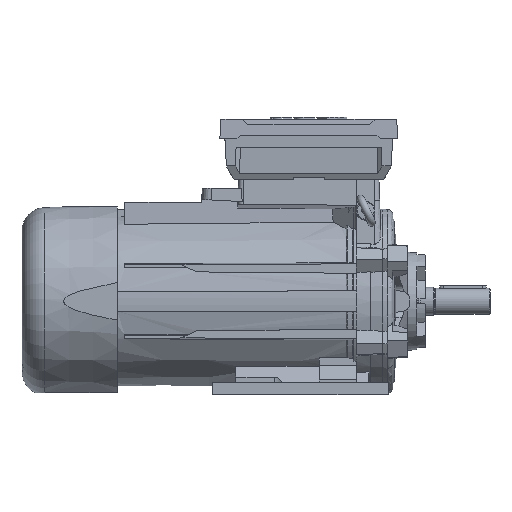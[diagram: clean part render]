
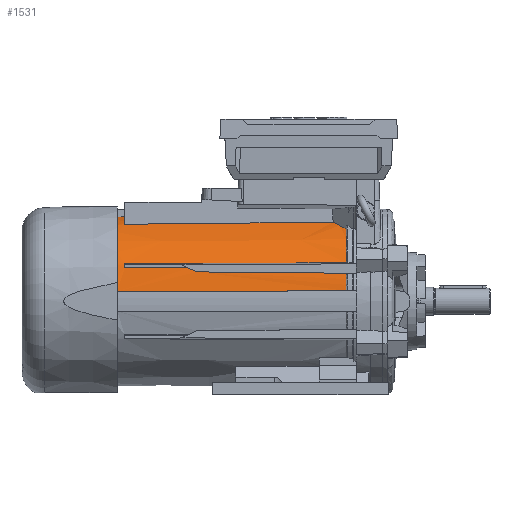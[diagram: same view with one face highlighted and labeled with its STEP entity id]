
A CAD part, left-side view. The second image highlights one B-rep face of the part: STEP entity #1531.
In plain terms, the highlighted conical face has half-angle 0.5 degrees and reference radius 90.718 mm.
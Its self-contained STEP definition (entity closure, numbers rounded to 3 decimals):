
#961=ELLIPSE('',#13448,130.717,92.512);
#962=ELLIPSE('',#13450,91.973,91.917);
#963=ELLIPSE('',#13453,222.337,92.185);
#1032=CONICAL_SURFACE('',#13455,90.718,0.5);
#1155=B_SPLINE_CURVE_WITH_KNOTS('',3,(#17859,#17860,#17861,#17862,#17863,
#17864,#17865),.UNSPECIFIED.,.F.,.F.,(4,3,4),(0.,0.192,1.),
 .UNSPECIFIED.);
#1156=B_SPLINE_CURVE_WITH_KNOTS('',3,(#17869,#17870,#17871,#17872,#17873,
#17874,#17875),.UNSPECIFIED.,.F.,.F.,(4,3,4),(0.,0.474,1.),
 .UNSPECIFIED.);
#1157=B_SPLINE_CURVE_WITH_KNOTS('',3,(#17879,#17880,#17881,#17882),
 .UNSPECIFIED.,.F.,.F.,(4,4),(0.,1.),.UNSPECIFIED.);
#1158=B_SPLINE_CURVE_WITH_KNOTS('',3,(#17886,#17887,#17888,#17889,#17890,
#17891,#17892),.UNSPECIFIED.,.F.,.F.,(4,3,4),(0.,0.266,1.),
 .UNSPECIFIED.);
#1159=B_SPLINE_CURVE_WITH_KNOTS('',3,(#17896,#17897,#17898,#17899),
 .UNSPECIFIED.,.F.,.F.,(4,4),(0.,1.),.UNSPECIFIED.);
#1160=B_SPLINE_CURVE_WITH_KNOTS('',3,(#17903,#17904,#17905,#17906),
 .UNSPECIFIED.,.F.,.F.,(4,4),(0.,1.),.UNSPECIFIED.);
#1161=B_SPLINE_CURVE_WITH_KNOTS('',3,(#17910,#17911,#17912,#17913,#17914,
#17915,#17916),.UNSPECIFIED.,.F.,.F.,(4,3,4),(0.,0.241,1.),
 .UNSPECIFIED.);
#1531=ADVANCED_FACE('',(#2682),#1032,.T.);
#2682=FACE_OUTER_BOUND('',#3335,.T.);
#3335=EDGE_LOOP('',(#4469,#4470,#4471,#4472,#4473,#4474,#4475,#4476,#4477,
#4478,#4479,#4480,#4481,#4482,#4483));
#4098=CIRCLE('',#13447,92.96);
#4099=CIRCLE('',#13449,90.893);
#4100=CIRCLE('',#13451,90.823);
#4101=CIRCLE('',#13452,92.96);
#4102=CIRCLE('',#13454,90.893);
#4469=ORIENTED_EDGE('',*,*,#9449,.F.);
#4470=ORIENTED_EDGE('',*,*,#9450,.F.);
#4471=ORIENTED_EDGE('',*,*,#9451,.T.);
#4472=ORIENTED_EDGE('',*,*,#9452,.F.);
#4473=ORIENTED_EDGE('',*,*,#9453,.T.);
#4474=ORIENTED_EDGE('',*,*,#9454,.T.);
#4475=ORIENTED_EDGE('',*,*,#9455,.F.);
#4476=ORIENTED_EDGE('',*,*,#9456,.F.);
#4477=ORIENTED_EDGE('',*,*,#9457,.T.);
#4478=ORIENTED_EDGE('',*,*,#9458,.F.);
#4479=ORIENTED_EDGE('',*,*,#9459,.T.);
#4480=ORIENTED_EDGE('',*,*,#9460,.T.);
#4481=ORIENTED_EDGE('',*,*,#9461,.T.);
#4482=ORIENTED_EDGE('',*,*,#9462,.F.);
#4483=ORIENTED_EDGE('',*,*,#9463,.T.);
#8219=VERTEX_POINT('',#17855);
#8220=VERTEX_POINT('',#17856);
#8221=VERTEX_POINT('',#17858);
#8222=VERTEX_POINT('',#17866);
#8223=VERTEX_POINT('',#17868);
#8224=VERTEX_POINT('',#17876);
#8225=VERTEX_POINT('',#17878);
#8226=VERTEX_POINT('',#17883);
#8227=VERTEX_POINT('',#17885);
#8228=VERTEX_POINT('',#17893);
#8229=VERTEX_POINT('',#17895);
#8230=VERTEX_POINT('',#17900);
#8231=VERTEX_POINT('',#17902);
#8232=VERTEX_POINT('',#17907);
#8233=VERTEX_POINT('',#17909);
#9449=EDGE_CURVE('',#8219,#8220,#4098,.T.);
#9450=EDGE_CURVE('',#8221,#8219,#961,.T.);
#9451=EDGE_CURVE('',#8221,#8222,#1155,.T.);
#9452=EDGE_CURVE('',#8223,#8222,#4099,.T.);
#9453=EDGE_CURVE('',#8223,#8224,#1156,.T.);
#9454=EDGE_CURVE('',#8224,#8225,#962,.T.);
#9455=EDGE_CURVE('',#8226,#8225,#1157,.T.);
#9456=EDGE_CURVE('',#8227,#8226,#4100,.T.);
#9457=EDGE_CURVE('',#8227,#8228,#1158,.T.);
#9458=EDGE_CURVE('',#8229,#8228,#4101,.T.);
#9459=EDGE_CURVE('',#8229,#8230,#1159,.T.);
#9460=EDGE_CURVE('',#8230,#8231,#963,.T.);
#9461=EDGE_CURVE('',#8231,#8232,#1160,.T.);
#9462=EDGE_CURVE('',#8233,#8232,#4102,.T.);
#9463=EDGE_CURVE('',#8233,#8220,#1161,.T.);
#13447=AXIS2_PLACEMENT_3D('',#17854,#14557,#14558);
#13448=AXIS2_PLACEMENT_3D('',#17857,#14559,#14560);
#13449=AXIS2_PLACEMENT_3D('',#17867,#14561,#14562);
#13450=AXIS2_PLACEMENT_3D('',#17877,#14563,#14564);
#13451=AXIS2_PLACEMENT_3D('',#17884,#14565,#14566);
#13452=AXIS2_PLACEMENT_3D('',#17894,#14567,#14568);
#13453=AXIS2_PLACEMENT_3D('',#17901,#14569,#14570);
#13454=AXIS2_PLACEMENT_3D('',#17908,#14571,#14572);
#13455=AXIS2_PLACEMENT_3D('',#17917,#14573,#14574);
#14557=DIRECTION('',(0.,-1.,0.));
#14558=DIRECTION('',(0.,0.,-1.));
#14559=DIRECTION('',(0.706,-0.708,0.));
#14560=DIRECTION('',(-0.708,-0.706,0.));
#14561=DIRECTION('',(0.,-1.,0.));
#14562=DIRECTION('',(0.,0.,-1.));
#14563=DIRECTION('',(0.,0.999,0.035));
#14564=DIRECTION('',(0.,-0.035,0.999));
#14565=DIRECTION('',(0.,1.,0.));
#14566=DIRECTION('',(0.,0.,1.));
#14567=DIRECTION('',(0.,-1.,0.));
#14568=DIRECTION('',(0.,0.,-1.));
#14569=DIRECTION('',(0.,0.415,-0.91));
#14570=DIRECTION('',(0.,-0.91,-0.415));
#14571=DIRECTION('',(0.,-1.,0.));
#14572=DIRECTION('',(0.,0.,-1.));
#14573=DIRECTION('',(0.,-1.,0.));
#14574=DIRECTION('',(0.,0.,-1.));
#17854=CARTESIAN_POINT('',(0.,42.1,0.));
#17855=CARTESIAN_POINT('',(-51.868,42.1,77.145));
#17856=CARTESIAN_POINT('',(-83.3,42.1,41.265));
#17857=CARTESIAN_POINT('',(-0.806,93.068,0.));
#17858=CARTESIAN_POINT('',(-38.016,55.926,84.699));
#17859=CARTESIAN_POINT('',(-38.016,55.926,84.699));
#17860=CARTESIAN_POINT('',(-38.024,70.216,84.559));
#17861=CARTESIAN_POINT('',(-38.031,84.506,84.419));
#17862=CARTESIAN_POINT('',(-38.038,98.796,84.279));
#17863=CARTESIAN_POINT('',(-38.069,158.864,83.69));
#17864=CARTESIAN_POINT('',(-38.1,218.932,83.1));
#17865=CARTESIAN_POINT('',(-38.131,279.,82.508));
#17866=CARTESIAN_POINT('',(-38.131,279.,82.508));
#17867=CARTESIAN_POINT('',(0.,279.,0.));
#17868=CARTESIAN_POINT('',(-30.826,279.,85.506));
#17869=CARTESIAN_POINT('',(-30.826,279.,85.506));
#17870=CARTESIAN_POINT('',(-30.835,259.979,85.679));
#17871=CARTESIAN_POINT('',(-30.844,240.959,85.852));
#17872=CARTESIAN_POINT('',(-30.853,221.938,86.025));
#17873=CARTESIAN_POINT('',(-30.863,200.832,86.218));
#17874=CARTESIAN_POINT('',(-30.873,179.726,86.41));
#17875=CARTESIAN_POINT('',(-30.883,158.62,86.602));
#17876=CARTESIAN_POINT('',(-30.883,158.62,86.602));
#17877=CARTESIAN_POINT('',(0.,161.643,0.028));
#17878=CARTESIAN_POINT('',(-10.872,158.456,91.3));
#17879=CARTESIAN_POINT('',(-10.49,287.,90.215));
#17880=CARTESIAN_POINT('',(-10.618,244.152,90.577));
#17881=CARTESIAN_POINT('',(-10.745,201.304,90.938));
#17882=CARTESIAN_POINT('',(-10.872,158.456,91.3));
#17883=CARTESIAN_POINT('',(-10.49,287.,90.215));
#17884=CARTESIAN_POINT('',(0.,287.,0.));
#17885=CARTESIAN_POINT('',(-90.215,287.,10.49));
#17886=CARTESIAN_POINT('',(-90.215,287.,10.49));
#17887=CARTESIAN_POINT('',(-90.398,265.313,10.555));
#17888=CARTESIAN_POINT('',(-90.581,243.625,10.619));
#17889=CARTESIAN_POINT('',(-90.764,221.938,10.683));
#17890=CARTESIAN_POINT('',(-91.27,161.992,10.861));
#17891=CARTESIAN_POINT('',(-91.776,102.046,11.039));
#17892=CARTESIAN_POINT('',(-92.281,42.1,11.217));
#17893=CARTESIAN_POINT('',(-92.281,42.1,11.217));
#17894=CARTESIAN_POINT('',(0.,42.1,0.));
#17895=CARTESIAN_POINT('',(-87.953,42.1,30.097));
#17896=CARTESIAN_POINT('',(-87.953,42.1,30.097));
#17897=CARTESIAN_POINT('',(-87.303,95.4,30.562));
#17898=CARTESIAN_POINT('',(-86.645,148.7,31.027));
#17899=CARTESIAN_POINT('',(-85.979,202.,31.492));
#17900=CARTESIAN_POINT('',(-85.979,202.,31.492));
#17901=CARTESIAN_POINT('',(0.,129.022,-1.766));
#17902=CARTESIAN_POINT('',(-84.244,211.17,35.671));
#17903=CARTESIAN_POINT('',(-84.244,211.17,35.671));
#17904=CARTESIAN_POINT('',(-83.985,233.78,35.776));
#17905=CARTESIAN_POINT('',(-83.726,256.39,35.881));
#17906=CARTESIAN_POINT('',(-83.466,279.,35.986));
#17907=CARTESIAN_POINT('',(-83.466,279.,35.986));
#17908=CARTESIAN_POINT('',(0.,279.,0.));
#17909=CARTESIAN_POINT('',(-81.562,279.,40.114));
#17910=CARTESIAN_POINT('',(-81.562,279.,40.114));
#17911=CARTESIAN_POINT('',(-81.702,259.979,40.206));
#17912=CARTESIAN_POINT('',(-81.841,240.959,40.298));
#17913=CARTESIAN_POINT('',(-81.981,221.938,40.391));
#17914=CARTESIAN_POINT('',(-82.421,161.992,40.682));
#17915=CARTESIAN_POINT('',(-82.86,102.046,40.973));
#17916=CARTESIAN_POINT('',(-83.3,42.1,41.265));
#17917=CARTESIAN_POINT('',(0.,299.,0.));
